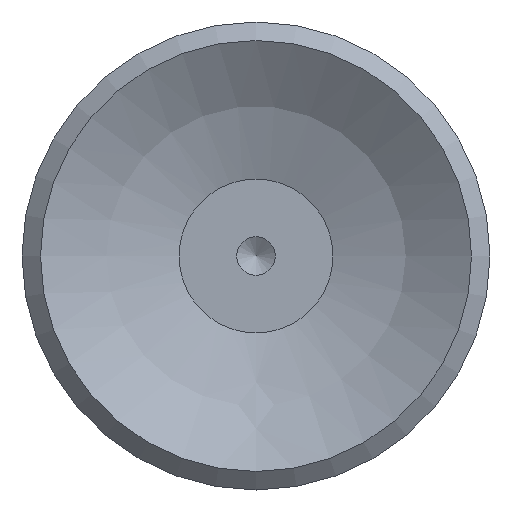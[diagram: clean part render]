
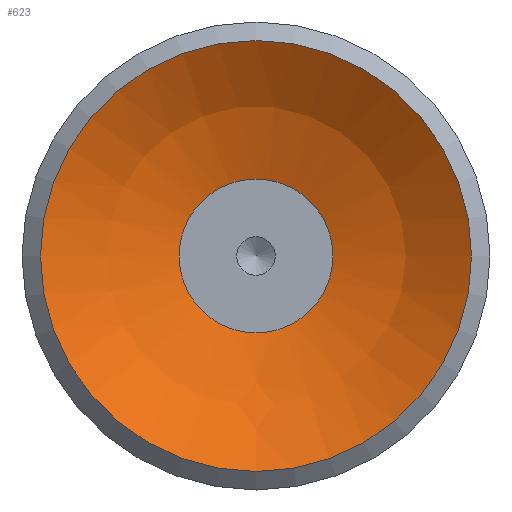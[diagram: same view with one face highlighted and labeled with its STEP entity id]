
A CAD part, front view. The second image highlights one B-rep face of the part: STEP entity #623.
In plain terms, the highlighted spherical face has radius 11.5 mm.
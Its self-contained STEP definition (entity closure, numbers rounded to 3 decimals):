
#623=ADVANCED_FACE('',(#1079,#1080),#1081,.F.);
#1079=FACE_OUTER_BOUND('',#1615,.T.);
#1080=FACE_OUTER_BOUND('',#1616,.T.);
#1081=SPHERICAL_SURFACE('',#1617,11.5);
#1615=EDGE_LOOP('',(#2937));
#1616=EDGE_LOOP('',(#2938));
#1617=AXIS2_PLACEMENT_3D('',#2939,#2940,#2941);
#2937=ORIENTED_EDGE('',*,*,#3708,.T.);
#2938=ORIENTED_EDGE('',*,*,#3709,.F.);
#2939=CARTESIAN_POINT('',(0.001,9.494,-22.735));
#2940=DIRECTION('',(0.0,0.,-1.0));
#2941=DIRECTION('',(1.0,0.0,0.0));
#3708=EDGE_CURVE('',#4442,#4442,#4443,.T.);
#3709=EDGE_CURVE('',#4444,#4444,#4445,.T.);
#4442=VERTEX_POINT('',#6283);
#4443=CIRCLE('',#6284,7.0);
#4444=VERTEX_POINT('',#6285);
#4445=CIRCLE('',#6286,2.5);
#6283=CARTESIAN_POINT('',(0.001,16.494,-13.611));
#6284=AXIS2_PLACEMENT_3D('',#6994,#6995,#6996);
#6285=CARTESIAN_POINT('',(0.001,11.994,-11.51));
#6286=AXIS2_PLACEMENT_3D('',#6997,#6998,#6999);
#6994=CARTESIAN_POINT('',(0.001,9.494,-13.611));
#6995=DIRECTION('',(0.0,0.,-1.0));
#6996=DIRECTION('',(0.0,1.0,0.));
#6997=CARTESIAN_POINT('',(0.001,9.494,-11.51));
#6998=DIRECTION('',(0.0,0.,-1.0));
#6999=DIRECTION('',(0.0,1.0,0.));
